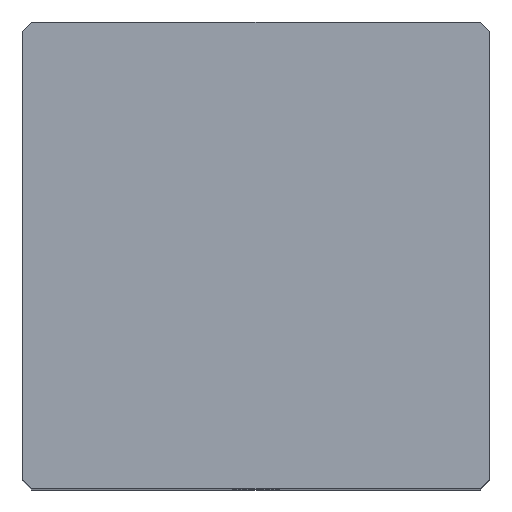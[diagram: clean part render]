
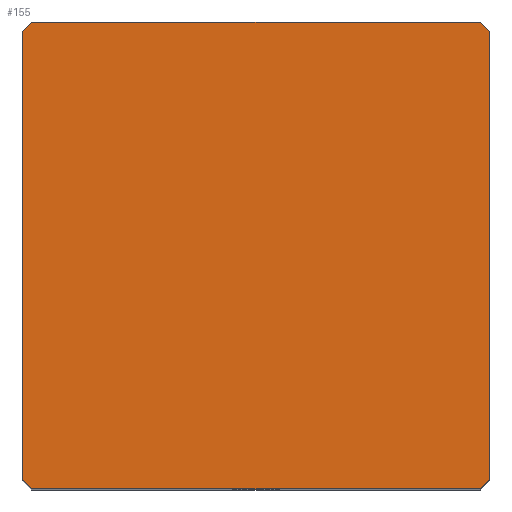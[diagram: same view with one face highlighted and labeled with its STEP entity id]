
A CAD part, top view. The second image highlights one B-rep face of the part: STEP entity #155.
In plain terms, the highlighted planar face has unit normal (0, 0, 1).
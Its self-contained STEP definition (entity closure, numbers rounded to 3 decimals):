
#39 = EDGE_CURVE('',#40,#42,#44,.T.);
#40 = VERTEX_POINT('',#41);
#41 = CARTESIAN_POINT('',(-10.,-9.6,30.25));
#42 = VERTEX_POINT('',#43);
#43 = CARTESIAN_POINT('',(-10.,9.6,30.25));
#44 = SURFACE_CURVE('',#45,(#49,#61),.PCURVE_S1.);
#45 = LINE('',#46,#47);
#46 = CARTESIAN_POINT('',(-10.,-10.,30.25));
#47 = VECTOR('',#48,1.);
#48 = DIRECTION('',(-0.,1.,0.));
#49 = PCURVE('',#50,#55);
#50 = PLANE('',#51);
#51 = AXIS2_PLACEMENT_3D('',#52,#53,#54);
#52 = CARTESIAN_POINT('',(-10.,-10.,0.));
#53 = DIRECTION('',(1.,0.,-0.));
#54 = DIRECTION('',(0.,0.,1.));
#55 = DEFINITIONAL_REPRESENTATION('',(#56),#60);
#56 = LINE('',#57,#58);
#57 = CARTESIAN_POINT('',(30.25,0.));
#58 = VECTOR('',#59,1.);
#59 = DIRECTION('',(0.,-1.));
#60 = ( GEOMETRIC_REPRESENTATION_CONTEXT(2) 
PARAMETRIC_REPRESENTATION_CONTEXT() REPRESENTATION_CONTEXT('2D SPACE',''
  ) );
#61 = PCURVE('',#62,#67);
#62 = PLANE('',#63);
#63 = AXIS2_PLACEMENT_3D('',#64,#65,#66);
#64 = CARTESIAN_POINT('',(-10.,-10.,30.25));
#65 = DIRECTION('',(0.,0.,1.));
#66 = DIRECTION('',(1.,0.,-0.));
#67 = DEFINITIONAL_REPRESENTATION('',(#68),#72);
#68 = LINE('',#69,#70);
#69 = CARTESIAN_POINT('',(0.,0.));
#70 = VECTOR('',#71,1.);
#71 = DIRECTION('',(0.,1.));
#72 = ( GEOMETRIC_REPRESENTATION_CONTEXT(2) 
PARAMETRIC_REPRESENTATION_CONTEXT() REPRESENTATION_CONTEXT('2D SPACE',''
  ) );
#90 = PLANE('',#91);
#91 = AXIS2_PLACEMENT_3D('',#92,#93,#94);
#92 = CARTESIAN_POINT('',(-9.8,-9.8,0.));
#93 = DIRECTION('',(-0.707,-0.707,0.));
#94 = DIRECTION('',(-0.,-0.,-1.));
#144 = PLANE('',#145);
#145 = AXIS2_PLACEMENT_3D('',#146,#147,#148);
#146 = CARTESIAN_POINT('',(-9.8,9.8,0.));
#147 = DIRECTION('',(0.707,-0.707,0.));
#148 = DIRECTION('',(-0.,-0.,-1.));
#155 = ADVANCED_FACE('',(#156),#62,.T.);
#156 = FACE_BOUND('',#157,.T.);
#157 = EDGE_LOOP('',(#158,#159,#182,#210,#238,#266,#294,#322));
#158 = ORIENTED_EDGE('',*,*,#39,.F.);
#159 = ORIENTED_EDGE('',*,*,#160,.T.);
#160 = EDGE_CURVE('',#40,#161,#163,.T.);
#161 = VERTEX_POINT('',#162);
#162 = CARTESIAN_POINT('',(-9.6,-10.,30.25));
#163 = SURFACE_CURVE('',#164,(#168,#175),.PCURVE_S1.);
#164 = LINE('',#165,#166);
#165 = CARTESIAN_POINT('',(-9.8,-9.8,30.25));
#166 = VECTOR('',#167,1.);
#167 = DIRECTION('',(0.707,-0.707,0.));
#168 = PCURVE('',#62,#169);
#169 = DEFINITIONAL_REPRESENTATION('',(#170),#174);
#170 = LINE('',#171,#172);
#171 = CARTESIAN_POINT('',(0.2,0.2));
#172 = VECTOR('',#173,1.);
#173 = DIRECTION('',(0.707,-0.707));
#174 = ( GEOMETRIC_REPRESENTATION_CONTEXT(2) 
PARAMETRIC_REPRESENTATION_CONTEXT() REPRESENTATION_CONTEXT('2D SPACE',''
  ) );
#175 = PCURVE('',#90,#176);
#176 = DEFINITIONAL_REPRESENTATION('',(#177),#181);
#177 = LINE('',#178,#179);
#178 = CARTESIAN_POINT('',(-30.25,0.));
#179 = VECTOR('',#180,1.);
#180 = DIRECTION('',(-0.,1.));
#181 = ( GEOMETRIC_REPRESENTATION_CONTEXT(2) 
PARAMETRIC_REPRESENTATION_CONTEXT() REPRESENTATION_CONTEXT('2D SPACE',''
  ) );
#182 = ORIENTED_EDGE('',*,*,#183,.T.);
#183 = EDGE_CURVE('',#161,#184,#186,.T.);
#184 = VERTEX_POINT('',#185);
#185 = CARTESIAN_POINT('',(9.6,-10.,30.25));
#186 = SURFACE_CURVE('',#187,(#191,#198),.PCURVE_S1.);
#187 = LINE('',#188,#189);
#188 = CARTESIAN_POINT('',(-10.,-10.,30.25));
#189 = VECTOR('',#190,1.);
#190 = DIRECTION('',(1.,0.,-0.));
#191 = PCURVE('',#62,#192);
#192 = DEFINITIONAL_REPRESENTATION('',(#193),#197);
#193 = LINE('',#194,#195);
#194 = CARTESIAN_POINT('',(0.,0.));
#195 = VECTOR('',#196,1.);
#196 = DIRECTION('',(1.,0.));
#197 = ( GEOMETRIC_REPRESENTATION_CONTEXT(2) 
PARAMETRIC_REPRESENTATION_CONTEXT() REPRESENTATION_CONTEXT('2D SPACE',''
  ) );
#198 = PCURVE('',#199,#204);
#199 = PLANE('',#200);
#200 = AXIS2_PLACEMENT_3D('',#201,#202,#203);
#201 = CARTESIAN_POINT('',(-10.,-10.,0.));
#202 = DIRECTION('',(-0.,1.,0.));
#203 = DIRECTION('',(0.,0.,1.));
#204 = DEFINITIONAL_REPRESENTATION('',(#205),#209);
#205 = LINE('',#206,#207);
#206 = CARTESIAN_POINT('',(30.25,0.));
#207 = VECTOR('',#208,1.);
#208 = DIRECTION('',(0.,1.));
#209 = ( GEOMETRIC_REPRESENTATION_CONTEXT(2) 
PARAMETRIC_REPRESENTATION_CONTEXT() REPRESENTATION_CONTEXT('2D SPACE',''
  ) );
#210 = ORIENTED_EDGE('',*,*,#211,.F.);
#211 = EDGE_CURVE('',#212,#184,#214,.T.);
#212 = VERTEX_POINT('',#213);
#213 = CARTESIAN_POINT('',(10.,-9.6,30.25));
#214 = SURFACE_CURVE('',#215,(#219,#226),.PCURVE_S1.);
#215 = LINE('',#216,#217);
#216 = CARTESIAN_POINT('',(4.8,-14.8,30.25));
#217 = VECTOR('',#218,1.);
#218 = DIRECTION('',(-0.707,-0.707,0.));
#219 = PCURVE('',#62,#220);
#220 = DEFINITIONAL_REPRESENTATION('',(#221),#225);
#221 = LINE('',#222,#223);
#222 = CARTESIAN_POINT('',(14.8,-4.8));
#223 = VECTOR('',#224,1.);
#224 = DIRECTION('',(-0.707,-0.707));
#225 = ( GEOMETRIC_REPRESENTATION_CONTEXT(2) 
PARAMETRIC_REPRESENTATION_CONTEXT() REPRESENTATION_CONTEXT('2D SPACE',''
  ) );
#226 = PCURVE('',#227,#232);
#227 = PLANE('',#228);
#228 = AXIS2_PLACEMENT_3D('',#229,#230,#231);
#229 = CARTESIAN_POINT('',(9.8,-9.8,0.));
#230 = DIRECTION('',(-0.707,0.707,0.));
#231 = DIRECTION('',(-0.,-0.,-1.));
#232 = DEFINITIONAL_REPRESENTATION('',(#233),#237);
#233 = LINE('',#234,#235);
#234 = CARTESIAN_POINT('',(-30.25,7.071));
#235 = VECTOR('',#236,1.);
#236 = DIRECTION('',(-0.,1.));
#237 = ( GEOMETRIC_REPRESENTATION_CONTEXT(2) 
PARAMETRIC_REPRESENTATION_CONTEXT() REPRESENTATION_CONTEXT('2D SPACE',''
  ) );
#238 = ORIENTED_EDGE('',*,*,#239,.T.);
#239 = EDGE_CURVE('',#212,#240,#242,.T.);
#240 = VERTEX_POINT('',#241);
#241 = CARTESIAN_POINT('',(10.,9.6,30.25));
#242 = SURFACE_CURVE('',#243,(#247,#254),.PCURVE_S1.);
#243 = LINE('',#244,#245);
#244 = CARTESIAN_POINT('',(10.,-10.,30.25));
#245 = VECTOR('',#246,1.);
#246 = DIRECTION('',(-0.,1.,0.));
#247 = PCURVE('',#62,#248);
#248 = DEFINITIONAL_REPRESENTATION('',(#249),#253);
#249 = LINE('',#250,#251);
#250 = CARTESIAN_POINT('',(20.,0.));
#251 = VECTOR('',#252,1.);
#252 = DIRECTION('',(0.,1.));
#253 = ( GEOMETRIC_REPRESENTATION_CONTEXT(2) 
PARAMETRIC_REPRESENTATION_CONTEXT() REPRESENTATION_CONTEXT('2D SPACE',''
  ) );
#254 = PCURVE('',#255,#260);
#255 = PLANE('',#256);
#256 = AXIS2_PLACEMENT_3D('',#257,#258,#259);
#257 = CARTESIAN_POINT('',(10.,-10.,0.));
#258 = DIRECTION('',(1.,0.,-0.));
#259 = DIRECTION('',(0.,0.,1.));
#260 = DEFINITIONAL_REPRESENTATION('',(#261),#265);
#261 = LINE('',#262,#263);
#262 = CARTESIAN_POINT('',(30.25,0.));
#263 = VECTOR('',#264,1.);
#264 = DIRECTION('',(0.,-1.));
#265 = ( GEOMETRIC_REPRESENTATION_CONTEXT(2) 
PARAMETRIC_REPRESENTATION_CONTEXT() REPRESENTATION_CONTEXT('2D SPACE',''
  ) );
#266 = ORIENTED_EDGE('',*,*,#267,.T.);
#267 = EDGE_CURVE('',#240,#268,#270,.T.);
#268 = VERTEX_POINT('',#269);
#269 = CARTESIAN_POINT('',(9.6,10.,30.25));
#270 = SURFACE_CURVE('',#271,(#275,#282),.PCURVE_S1.);
#271 = LINE('',#272,#273);
#272 = CARTESIAN_POINT('',(9.8,9.8,30.25));
#273 = VECTOR('',#274,1.);
#274 = DIRECTION('',(-0.707,0.707,0.));
#275 = PCURVE('',#62,#276);
#276 = DEFINITIONAL_REPRESENTATION('',(#277),#281);
#277 = LINE('',#278,#279);
#278 = CARTESIAN_POINT('',(19.8,19.8));
#279 = VECTOR('',#280,1.);
#280 = DIRECTION('',(-0.707,0.707));
#281 = ( GEOMETRIC_REPRESENTATION_CONTEXT(2) 
PARAMETRIC_REPRESENTATION_CONTEXT() REPRESENTATION_CONTEXT('2D SPACE',''
  ) );
#282 = PCURVE('',#283,#288);
#283 = PLANE('',#284);
#284 = AXIS2_PLACEMENT_3D('',#285,#286,#287);
#285 = CARTESIAN_POINT('',(9.8,9.8,0.));
#286 = DIRECTION('',(0.707,0.707,0.));
#287 = DIRECTION('',(-0.,0.,-1.));
#288 = DEFINITIONAL_REPRESENTATION('',(#289),#293);
#289 = LINE('',#290,#291);
#290 = CARTESIAN_POINT('',(-30.25,0.));
#291 = VECTOR('',#292,1.);
#292 = DIRECTION('',(-0.,1.));
#293 = ( GEOMETRIC_REPRESENTATION_CONTEXT(2) 
PARAMETRIC_REPRESENTATION_CONTEXT() REPRESENTATION_CONTEXT('2D SPACE',''
  ) );
#294 = ORIENTED_EDGE('',*,*,#295,.F.);
#295 = EDGE_CURVE('',#296,#268,#298,.T.);
#296 = VERTEX_POINT('',#297);
#297 = CARTESIAN_POINT('',(-9.6,10.,30.25));
#298 = SURFACE_CURVE('',#299,(#303,#310),.PCURVE_S1.);
#299 = LINE('',#300,#301);
#300 = CARTESIAN_POINT('',(-10.,10.,30.25));
#301 = VECTOR('',#302,1.);
#302 = DIRECTION('',(1.,0.,-0.));
#303 = PCURVE('',#62,#304);
#304 = DEFINITIONAL_REPRESENTATION('',(#305),#309);
#305 = LINE('',#306,#307);
#306 = CARTESIAN_POINT('',(0.,20.));
#307 = VECTOR('',#308,1.);
#308 = DIRECTION('',(1.,0.));
#309 = ( GEOMETRIC_REPRESENTATION_CONTEXT(2) 
PARAMETRIC_REPRESENTATION_CONTEXT() REPRESENTATION_CONTEXT('2D SPACE',''
  ) );
#310 = PCURVE('',#311,#316);
#311 = PLANE('',#312);
#312 = AXIS2_PLACEMENT_3D('',#313,#314,#315);
#313 = CARTESIAN_POINT('',(-10.,10.,0.));
#314 = DIRECTION('',(-0.,1.,0.));
#315 = DIRECTION('',(0.,0.,1.));
#316 = DEFINITIONAL_REPRESENTATION('',(#317),#321);
#317 = LINE('',#318,#319);
#318 = CARTESIAN_POINT('',(30.25,0.));
#319 = VECTOR('',#320,1.);
#320 = DIRECTION('',(0.,1.));
#321 = ( GEOMETRIC_REPRESENTATION_CONTEXT(2) 
PARAMETRIC_REPRESENTATION_CONTEXT() REPRESENTATION_CONTEXT('2D SPACE',''
  ) );
#322 = ORIENTED_EDGE('',*,*,#323,.F.);
#323 = EDGE_CURVE('',#42,#296,#324,.T.);
#324 = SURFACE_CURVE('',#325,(#329,#336),.PCURVE_S1.);
#325 = LINE('',#326,#327);
#326 = CARTESIAN_POINT('',(-14.8,4.8,30.25));
#327 = VECTOR('',#328,1.);
#328 = DIRECTION('',(0.707,0.707,-0.));
#329 = PCURVE('',#62,#330);
#330 = DEFINITIONAL_REPRESENTATION('',(#331),#335);
#331 = LINE('',#332,#333);
#332 = CARTESIAN_POINT('',(-4.8,14.8));
#333 = VECTOR('',#334,1.);
#334 = DIRECTION('',(0.707,0.707));
#335 = ( GEOMETRIC_REPRESENTATION_CONTEXT(2) 
PARAMETRIC_REPRESENTATION_CONTEXT() REPRESENTATION_CONTEXT('2D SPACE',''
  ) );
#336 = PCURVE('',#144,#337);
#337 = DEFINITIONAL_REPRESENTATION('',(#338),#342);
#338 = LINE('',#339,#340);
#339 = CARTESIAN_POINT('',(-30.25,-7.071));
#340 = VECTOR('',#341,1.);
#341 = DIRECTION('',(-0.,1.));
#342 = ( GEOMETRIC_REPRESENTATION_CONTEXT(2) 
PARAMETRIC_REPRESENTATION_CONTEXT() REPRESENTATION_CONTEXT('2D SPACE',''
  ) );
